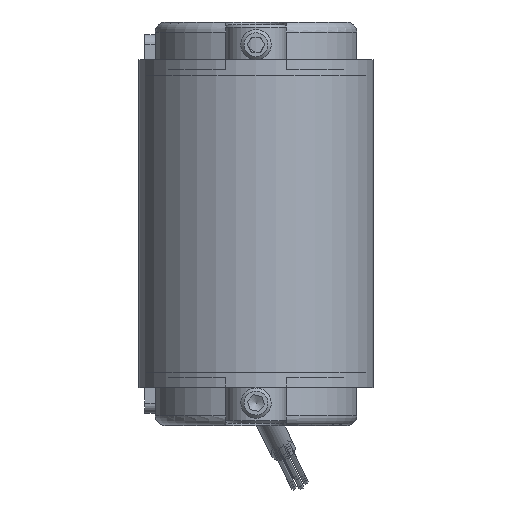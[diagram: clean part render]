
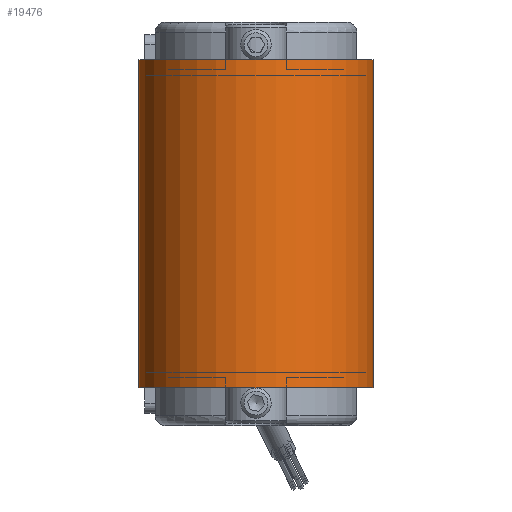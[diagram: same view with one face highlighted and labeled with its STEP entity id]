
A CAD part, front view. The second image highlights one B-rep face of the part: STEP entity #19476.
In plain terms, the highlighted cylindrical face has radius 23.3 mm (diameter 46.6 mm), a partial arc.
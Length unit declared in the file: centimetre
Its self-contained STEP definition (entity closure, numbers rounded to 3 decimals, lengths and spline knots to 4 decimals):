
#395=CYLINDRICAL_SURFACE('',#20898,2.33);
#1029=CIRCLE('',#20893,2.33);
#1032=CIRCLE('',#20899,2.33);
#2750=FACE_OUTER_BOUND('',#3863,.T.);
#3863=EDGE_LOOP('',(#15517,#15518,#15519,#15520));
#5151=LINE('',#32575,#6644);
#5152=LINE('',#32579,#6645);
#6644=VECTOR('',#24546,1.);
#6645=VECTOR('',#24551,1.);
#8669=VERTEX_POINT('',#32558);
#8670=VERTEX_POINT('',#32559);
#8675=VERTEX_POINT('',#32573);
#8676=VERTEX_POINT('',#32577);
#11083=EDGE_CURVE('',#8669,#8670,#1029,.T.);
#11091=EDGE_CURVE('',#8675,#8670,#5151,.T.);
#11092=EDGE_CURVE('',#8675,#8676,#1032,.T.);
#11093=EDGE_CURVE('',#8669,#8676,#5152,.T.);
#15517=ORIENTED_EDGE('',*,*,#11092,.T.);
#15518=ORIENTED_EDGE('',*,*,#11093,.F.);
#15519=ORIENTED_EDGE('',*,*,#11083,.T.);
#15520=ORIENTED_EDGE('',*,*,#11091,.F.);
#19476=ADVANCED_FACE('',(#2750),#395,.T.);
#20893=AXIS2_PLACEMENT_3D('',#32560,#24531,#24532);
#20898=AXIS2_PLACEMENT_3D('',#32576,#24547,#24548);
#20899=AXIS2_PLACEMENT_3D('',#32578,#24549,#24550);
#24531=DIRECTION('center_axis',(0.,0.,
-1.));
#24532=DIRECTION('ref_axis',(-1.,0.,0.));
#24546=DIRECTION('',(0.,0.,1.));
#24547=DIRECTION('center_axis',(0.,0.,
-1.));
#24548=DIRECTION('ref_axis',(-1.,0.,0.));
#24549=DIRECTION('center_axis',(0.,0.,
1.));
#24550=DIRECTION('ref_axis',(-1.,0.,0.));
#24551=DIRECTION('',(0.,0.,-1.));
#32558=CARTESIAN_POINT('',(2.33,-127.,3.25));
#32559=CARTESIAN_POINT('',(-2.33,-127.,3.25));
#32560=CARTESIAN_POINT('Origin',(0.,-127.,
3.25));
#32573=CARTESIAN_POINT('',(-2.33,-127.,-3.25));
#32575=CARTESIAN_POINT('',(-2.33,-127.,0.));
#32576=CARTESIAN_POINT('Origin',(0.,-127.,
0.));
#32577=CARTESIAN_POINT('',(2.33,-127.,-3.25));
#32578=CARTESIAN_POINT('Origin',(0.,-127.,
-3.25));
#32579=CARTESIAN_POINT('',(2.33,-127.,0.));
